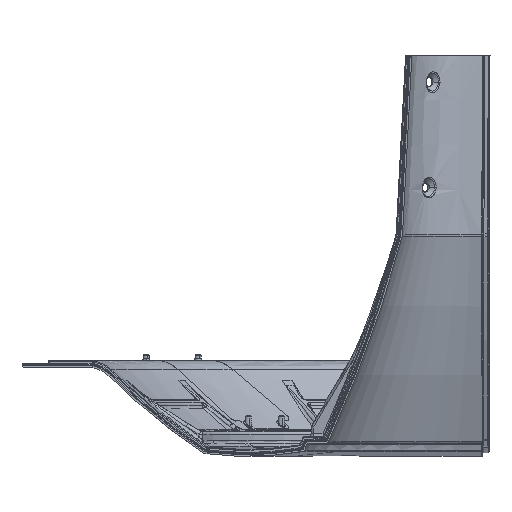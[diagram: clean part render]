
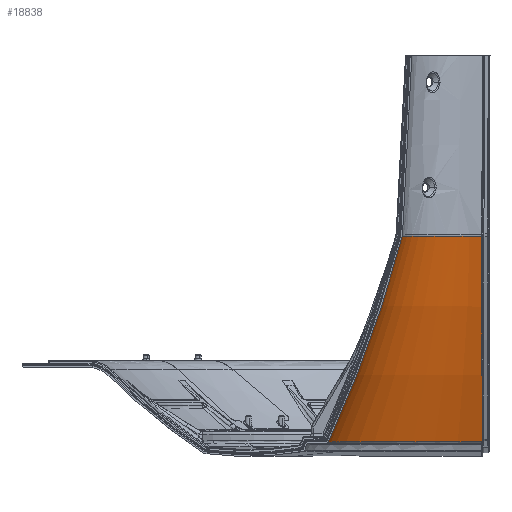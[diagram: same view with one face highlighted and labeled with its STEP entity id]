
A CAD part, front view. The second image highlights one B-rep face of the part: STEP entity #18838.
In plain terms, the highlighted toroidal (fillet/blend) face has major radius 620.339 mm and minor radius 600 mm.
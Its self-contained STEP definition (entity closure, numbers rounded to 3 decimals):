
#2737=CARTESIAN_POINT('',(-2.318,40.064,
-95.734));
#4322=CARTESIAN_POINT('',(0.,0.,-193.223));
#4323=DIRECTION('',(0.,0.,-1.));
#4324=DIRECTION('',(-1.,0.023,0.));
#4325=AXIS2_PLACEMENT_3D('',#4322,#4323,#4324);
#4327=CARTESIAN_POINT('',(0.,0.,-193.223));
#4328=DIRECTION('',(0.,0.,-1.));
#4329=DIRECTION('',(-0.709,0.705,0.));
#4330=AXIS2_PLACEMENT_3D('',#4327,#4328,#4329);
#4339=CARTESIAN_POINT('',(-620.759,1.75,57.368));
#4340=DIRECTION('',(0.,-1.,0.));
#4341=DIRECTION('',(0.909,0.,-0.417));
#4342=AXIS2_PLACEMENT_3D('',#4339,#4340,#4341);
#4344=CARTESIAN_POINT('',(0.,0.,-95.734));
#4345=DIRECTION('',(0.,0.,-1.));
#4346=DIRECTION('',(-0.999,0.044,0.));
#4347=AXIS2_PLACEMENT_3D('',#4344,#4345,#4346);
#4349=CARTESIAN_POINT('',(0.,0.,-95.734));
#4350=DIRECTION('',(0.,0.,-1.));
#4351=DIRECTION('',(-0.708,0.706,0.));
#4352=AXIS2_PLACEMENT_3D('',#4349,#4350,#4351);
#4354=CARTESIAN_POINT('',(-2.318,40.064,
-95.734));
#4355=CARTESIAN_POINT('',(-2.318,40.076,
-95.778));
#4356=CARTESIAN_POINT('',(-2.318,40.099,
-95.866));
#4357=CARTESIAN_POINT('',(-2.317,40.134,
-95.999));
#4358=CARTESIAN_POINT('',(-2.317,40.158,
-96.088));
#4359=CARTESIAN_POINT('',(-2.317,40.17,
-96.132));
#4361=CARTESIAN_POINT('',(-2.326,621.011,57.542));
#4362=DIRECTION('',(1.,0.,0.));
#4363=DIRECTION('',(0.,-0.967,-0.256));
#4364=AXIS2_PLACEMENT_3D('',#4361,#4362,#4363);
#12104=CARTESIAN_POINT('',(-75.033,1.75,
-193.223));
#12105=VERTEX_POINT('',#12104);
#12204=VERTEX_POINT('',#2737);
#12205=CARTESIAN_POINT('',(-28.419,28.335,
-95.734));
#12206=VERTEX_POINT('',#12205);
#12207=CARTESIAN_POINT('',(-40.093,1.75,
-95.734));
#12208=VERTEX_POINT('',#12207);
#12209=VERTEX_POINT('',#4359);
#12210=CARTESIAN_POINT('',(-53.201,52.94,
-193.223));
#12211=CARTESIAN_POINT('',(-2.341,75.017,
-193.223));
#12212=VERTEX_POINT('',#12210);
#12213=VERTEX_POINT('',#12211);
#18821=CARTESIAN_POINT('',(0.,0.,57.104));
#18822=DIRECTION('',(0.,0.,1.));
#18823=DIRECTION('',(0.,1.,0.));
#18824=AXIS2_PLACEMENT_3D('',#18821,#18822,#18823);
#18825=TOROIDAL_SURFACE('',#18824,620.339,600.);
#18826=ORIENTED_EDGE('',*,*,#18809,.F.);
#18827=ORIENTED_EDGE('',*,*,#18807,.F.);
#18829=ORIENTED_EDGE('',*,*,#18828,.T.);
#18830=ORIENTED_EDGE('',*,*,#16219,.T.);
#18831=ORIENTED_EDGE('',*,*,#16217,.T.);
#18833=ORIENTED_EDGE('',*,*,#18832,.T.);
#18835=ORIENTED_EDGE('',*,*,#18834,.T.);
#18836=EDGE_LOOP('',(#18826,#18827,#18829,#18830,#18831,#18833,#18835));
#18837=FACE_OUTER_BOUND('',#18836,.F.);
#18838=ADVANCED_FACE('',(#18837),#18825,.T.);
#4326=CIRCLE('',#4325,75.053);
#4331=CIRCLE('',#4330,75.053);
#4343=CIRCLE('',#4342,600.51);
#4348=CIRCLE('',#4347,40.131);
#4353=CIRCLE('',#4352,40.131);
#4360=B_SPLINE_CURVE_WITH_KNOTS('',3,(#4354,#4355,#4356,#4357,#4358,#4359),
.UNSPECIFIED.,.F.,.F.,(4,1,1,4),(0.,0.333,0.667,1.),
.UNSPECIFIED.);
#4365=CIRCLE('',#4364,600.827);
#16217=EDGE_CURVE('',#12206,#12204,#4353,.T.);
#16219=EDGE_CURVE('',#12208,#12206,#4348,.T.);
#18807=EDGE_CURVE('',#12105,#12212,#4326,.T.);
#18809=EDGE_CURVE('',#12212,#12213,#4331,.T.);
#18828=EDGE_CURVE('',#12105,#12208,#4343,.T.);
#18832=EDGE_CURVE('',#12204,#12209,#4360,.T.);
#18834=EDGE_CURVE('',#12209,#12213,#4365,.T.);
